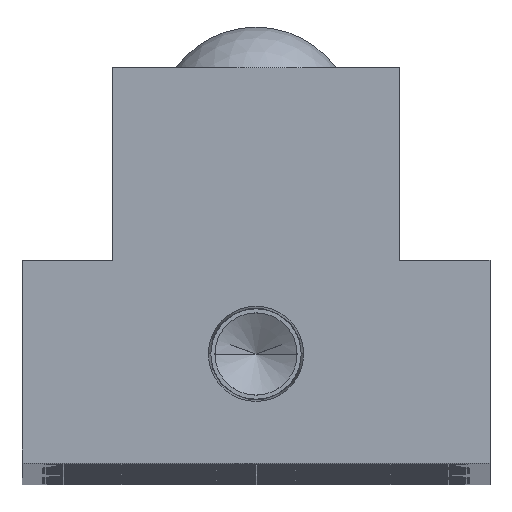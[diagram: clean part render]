
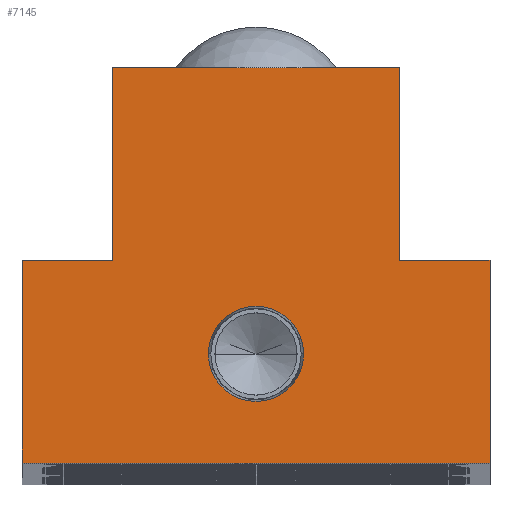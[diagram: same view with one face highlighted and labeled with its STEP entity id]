
A CAD part, top view. The second image highlights one B-rep face of the part: STEP entity #7145.
In plain terms, the highlighted planar face has unit normal (0, 0, 1).
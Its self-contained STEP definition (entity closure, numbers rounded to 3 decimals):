
#144 = VERTEX_POINT ( 'NONE', #10756 ) ;
#218 = DIRECTION ( 'NONE',  ( 0., 1., 0. ) ) ;
#452 = VECTOR ( 'NONE', #5926, 1000. ) ;
#848 = ORIENTED_EDGE ( 'NONE', *, *, #18467, .F. ) ;
#1696 = EDGE_LOOP ( 'NONE', ( #848, #19883 ) ) ;
#1705 = CARTESIAN_POINT ( 'NONE',  ( -22.5, 19.5, 0. ) ) ;
#1756 = ORIENTED_EDGE ( 'NONE', *, *, #8256, .T. ) ;
#2091 = VECTOR ( 'NONE', #15887, 1000. ) ;
#2412 = CARTESIAN_POINT ( 'NONE',  ( -13.75, 38., 0. ) ) ;
#2515 = ORIENTED_EDGE ( 'NONE', *, *, #17248, .T. ) ;
#2704 = CARTESIAN_POINT ( 'NONE',  ( 22.5, 19.5, 0. ) ) ;
#2790 = DIRECTION ( 'NONE',  ( -1., 0., 0. ) ) ;
#2831 = CARTESIAN_POINT ( 'NONE',  ( 22.5, 19.5, 0. ) ) ;
#2832 = VECTOR ( 'NONE', #2790, 1000. ) ;
#3119 = AXIS2_PLACEMENT_3D ( 'NONE', #8005, #19623, #9705 ) ;
#3384 = ORIENTED_EDGE ( 'NONE', *, *, #12772, .T. ) ;
#3474 = CARTESIAN_POINT ( 'NONE',  ( -13.75, 38., 0. ) ) ;
#3475 = EDGE_CURVE ( 'NONE', #8162, #8721, #5036, .T. ) ;
#3588 = VECTOR ( 'NONE', #5163, 1000. ) ;
#3947 = PLANE ( 'NONE',  #11010 ) ;
#4155 = CARTESIAN_POINT ( 'NONE',  ( 13.75, 38., 0. ) ) ;
#4230 = ORIENTED_EDGE ( 'NONE', *, *, #21776, .T. ) ;
#4431 = VERTEX_POINT ( 'NONE', #3474 ) ;
#4542 = VERTEX_POINT ( 'NONE', #4155 ) ;
#4627 = VERTEX_POINT ( 'NONE', #16263 ) ;
#5010 = VERTEX_POINT ( 'NONE', #5629 ) ;
#5036 = LINE ( 'NONE', #12645, #452 ) ;
#5163 = DIRECTION ( 'NONE',  ( 0., -1., 0. ) ) ;
#5363 = CARTESIAN_POINT ( 'NONE',  ( -13.75, 38., 0. ) ) ;
#5571 = AXIS2_PLACEMENT_3D ( 'NONE', #9353, #20912, #11065 ) ;
#5629 = CARTESIAN_POINT ( 'NONE',  ( -22.5, 19.5, 0. ) ) ;
#5795 = CARTESIAN_POINT ( 'NONE',  ( -13.75, 19.5, 0. ) ) ;
#5926 = DIRECTION ( 'NONE',  ( 1., 0., 0. ) ) ;
#6300 = DIRECTION ( 'NONE',  ( 0., 1., 0. ) ) ;
#6889 = ORIENTED_EDGE ( 'NONE', *, *, #9138, .T. ) ;
#7145 = ADVANCED_FACE ( 'NONE', ( #13821, #9945 ), #3947, .F. ) ;
#8005 = CARTESIAN_POINT ( 'NONE',  ( 0., 10.5, 0. ) ) ;
#8162 = VERTEX_POINT ( 'NONE', #17232 ) ;
#8256 = EDGE_CURVE ( 'NONE', #11027, #5010, #19981, .T. ) ;
#8334 = CARTESIAN_POINT ( 'NONE',  ( -13.75, 19.5, 0. ) ) ;
#8574 = LINE ( 'NONE', #2412, #11974 ) ;
#8721 = VERTEX_POINT ( 'NONE', #18375 ) ;
#8754 = LINE ( 'NONE', #12229, #17078 ) ;
#8803 = LINE ( 'NONE', #2831, #16627 ) ;
#8824 = ORIENTED_EDGE ( 'NONE', *, *, #12558, .T. ) ;
#8949 = CARTESIAN_POINT ( 'NONE',  ( 4.574, 10.5, 0. ) ) ;
#9138 = EDGE_CURVE ( 'NONE', #8721, #144, #8803, .T. ) ;
#9353 = CARTESIAN_POINT ( 'NONE',  ( 0., 10.5, 0. ) ) ;
#9705 = DIRECTION ( 'NONE',  ( 1., 0., 0. ) ) ;
#9715 = ORIENTED_EDGE ( 'NONE', *, *, #3475, .T. ) ;
#9945 = FACE_OUTER_BOUND ( 'NONE', #13344, .T. ) ;
#10324 = ORIENTED_EDGE ( 'NONE', *, *, #17171, .T. ) ;
#10478 = VERTEX_POINT ( 'NONE', #8949 ) ;
#10706 = LINE ( 'NONE', #5363, #21761 ) ;
#10756 = CARTESIAN_POINT ( 'NONE',  ( 22.5, 19.5, 0. ) ) ;
#11010 = AXIS2_PLACEMENT_3D ( 'NONE', #12416, #15713, #15795 ) ;
#11027 = VERTEX_POINT ( 'NONE', #8334 ) ;
#11065 = DIRECTION ( 'NONE',  ( 1., 0., 0. ) ) ;
#11974 = VECTOR ( 'NONE', #18906, 1000. ) ;
#12229 = CARTESIAN_POINT ( 'NONE',  ( 13.75, 38., 0. ) ) ;
#12416 = CARTESIAN_POINT ( 'NONE',  ( 0., 0., 0. ) ) ;
#12558 = EDGE_CURVE ( 'NONE', #144, #19379, #16840, .T. ) ;
#12645 = CARTESIAN_POINT ( 'NONE',  ( 22.5, 0., 0. ) ) ;
#12772 = EDGE_CURVE ( 'NONE', #19379, #4542, #8754, .T. ) ;
#13344 = EDGE_LOOP ( 'NONE', ( #6889, #8824, #3384, #2515, #10324, #1756, #4230, #9715 ) ) ;
#13821 = FACE_BOUND ( 'NONE', #1696, .T. ) ;
#13935 = CARTESIAN_POINT ( 'NONE',  ( 13.75, 19.5, 0. ) ) ;
#15713 = DIRECTION ( 'NONE',  ( 0., 0., -1. ) ) ;
#15795 = DIRECTION ( 'NONE',  ( -1., 0., 0. ) ) ;
#15887 = DIRECTION ( 'NONE',  ( -1., 0., 0. ) ) ;
#16263 = CARTESIAN_POINT ( 'NONE',  ( -4.574, 10.5, 0. ) ) ;
#16627 = VECTOR ( 'NONE', #6300, 1000. ) ;
#16654 = CIRCLE ( 'NONE', #3119, 4.574 ) ;
#16840 = LINE ( 'NONE', #2704, #2832 ) ;
#17078 = VECTOR ( 'NONE', #218, 1000. ) ;
#17124 = DIRECTION ( 'NONE',  ( 0., -1., 0. ) ) ;
#17171 = EDGE_CURVE ( 'NONE', #4431, #11027, #10706, .T. ) ;
#17232 = CARTESIAN_POINT ( 'NONE',  ( -22.5, 0., 0. ) ) ;
#17248 = EDGE_CURVE ( 'NONE', #4542, #4431, #8574, .T. ) ;
#17481 = EDGE_CURVE ( 'NONE', #4627, #10478, #16654, .T. ) ;
#18283 = CIRCLE ( 'NONE', #5571, 4.574 ) ;
#18375 = CARTESIAN_POINT ( 'NONE',  ( 22.5, 0., 0. ) ) ;
#18467 = EDGE_CURVE ( 'NONE', #10478, #4627, #18283, .T. ) ;
#18906 = DIRECTION ( 'NONE',  ( -1., 0., 0. ) ) ;
#19379 = VERTEX_POINT ( 'NONE', #13935 ) ;
#19623 = DIRECTION ( 'NONE',  ( 0., 0., 1. ) ) ;
#19883 = ORIENTED_EDGE ( 'NONE', *, *, #17481, .F. ) ;
#19981 = LINE ( 'NONE', #5795, #2091 ) ;
#20912 = DIRECTION ( 'NONE',  ( 0., 0., 1. ) ) ;
#21368 = LINE ( 'NONE', #1705, #3588 ) ;
#21761 = VECTOR ( 'NONE', #17124, 1000. ) ;
#21776 = EDGE_CURVE ( 'NONE', #5010, #8162, #21368, .T. ) ;
